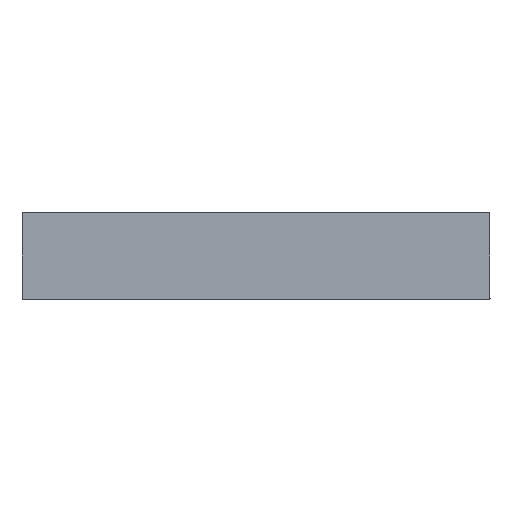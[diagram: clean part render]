
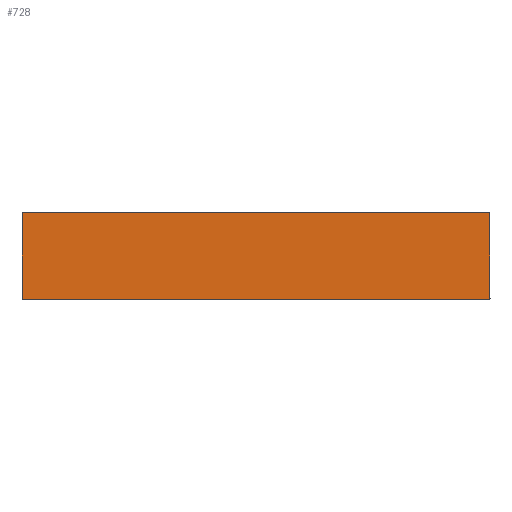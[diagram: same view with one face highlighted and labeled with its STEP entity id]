
A CAD part, left-side view. The second image highlights one B-rep face of the part: STEP entity #728.
In plain terms, the highlighted planar face has unit normal (-1, 0, 0).
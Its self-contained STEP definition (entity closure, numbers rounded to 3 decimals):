
#728=ADVANCED_FACE('',(#1324),#1326,.T.);
#1324=FACE_BOUND('',#1325,.T.);
#1325=EDGE_LOOP('',(#1845,#1846,#1847,#1848));
#1326=PLANE('',#1327);
#1327=AXIS2_PLACEMENT_3D('',#1328,#1329,#1330);
#1328=CARTESIAN_POINT('',(-20.5,17.5,0.));
#1329=DIRECTION('',(-1.,0.,0.));
#1330=DIRECTION('',(0.,-1.,0.));
#1845=ORIENTED_EDGE('',*,*,#2127,.T.);
#1846=ORIENTED_EDGE('',*,*,#1931,.T.);
#1847=ORIENTED_EDGE('',*,*,#2078,.F.);
#1848=ORIENTED_EDGE('',*,*,#1951,.F.);
#1931=EDGE_CURVE('',#2230,#2228,#2231,.T.);
#1951=EDGE_CURVE('',#2268,#2270,#2271,.T.);
#2078=EDGE_CURVE('',#2270,#2228,#2498,.T.);
#2127=EDGE_CURVE('',#2268,#2230,#2547,.T.);
#2228=VERTEX_POINT('',#2757);
#2230=VERTEX_POINT('',#2761);
#2231=LINE('',#2762,#2763);
#2268=VERTEX_POINT('',#2951);
#2270=VERTEX_POINT('',#2955);
#2271=LINE('',#2956,#2957);
#2498=LINE('',#3608,#3609);
#2547=LINE('',#3755,#3756);
#2757=CARTESIAN_POINT('',(-20.5,-17.5,6.5));
#2761=CARTESIAN_POINT('',(-20.5,-17.5,0.));
#2762=CARTESIAN_POINT('',(-20.5,-17.5,0.));
#2763=VECTOR('',#2764,1.);
#2764=DIRECTION('',(0.,0.,1.));
#2951=CARTESIAN_POINT('',(-20.5,17.5,0.));
#2955=CARTESIAN_POINT('',(-20.5,17.5,6.5));
#2956=CARTESIAN_POINT('',(-20.5,17.5,0.));
#2957=VECTOR('',#2958,1.);
#2958=DIRECTION('',(0.,0.,1.));
#3608=CARTESIAN_POINT('',(-20.5,17.5,6.5));
#3609=VECTOR('',#3610,1.);
#3610=DIRECTION('',(0.,-1.,0.));
#3755=CARTESIAN_POINT('',(-20.5,17.5,0.));
#3756=VECTOR('',#3757,1.);
#3757=DIRECTION('',(0.,-1.,0.));
